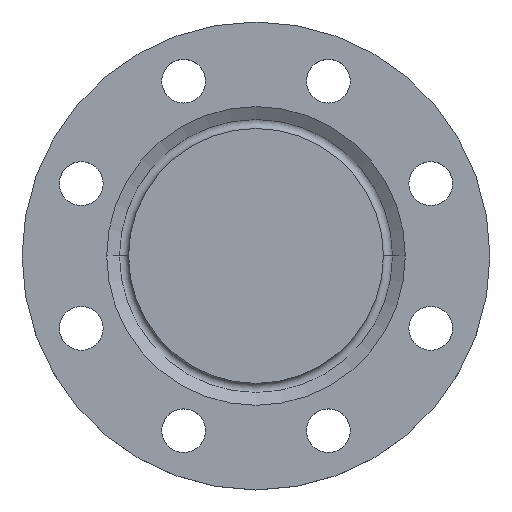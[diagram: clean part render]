
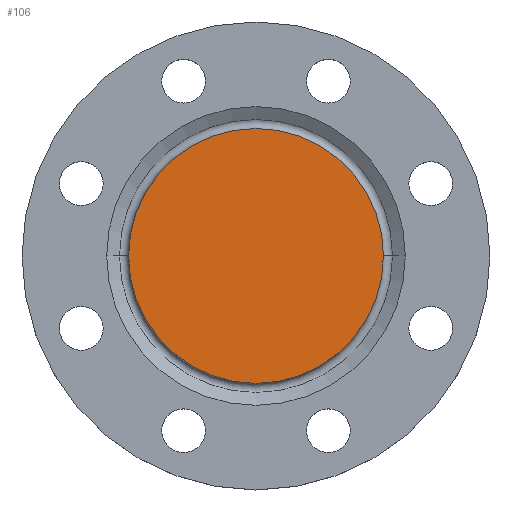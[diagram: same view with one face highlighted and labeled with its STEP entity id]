
A CAD part, top view. The second image highlights one B-rep face of the part: STEP entity #106.
In plain terms, the highlighted planar face has unit normal (0, 0, 1).
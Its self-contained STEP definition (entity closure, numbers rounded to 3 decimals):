
#66 = CARTESIAN_POINT ( 'NONE',  ( 64., 0., 0. ) ) ;
#106 = ADVANCED_FACE ( 'NONE', ( #494 ), #495, .T. ) ;
#133 = CARTESIAN_POINT ( 'NONE',  ( -64., 0., 0. ) ) ;
#272 = DIRECTION ( 'NONE',  ( -1., 0., 0. ) ) ;
#273 = DIRECTION ( 'NONE',  ( 0., 0., -1. ) ) ;
#275 = CARTESIAN_POINT ( 'NONE',  ( 0., 0., 0. ) ) ;
#364 = CIRCLE ( 'NONE', #676, 64. ) ;
#377 = AXIS2_PLACEMENT_3D ( 'NONE', #496, #497, #498 ) ;
#494 = FACE_OUTER_BOUND ( 'NONE', #870, .T. ) ;
#495 = PLANE ( 'NONE',  #377 ) ;
#496 = CARTESIAN_POINT ( 'NONE',  ( 0., 0., 0. ) ) ;
#497 = DIRECTION ( 'NONE',  ( 0., 0., 1. ) ) ;
#498 = DIRECTION ( 'NONE',  ( 1., 0., 0. ) ) ;
#590 = EDGE_CURVE ( 'NONE', #901, #748, #761, .T. ) ;
#606 = EDGE_CURVE ( 'NONE', #748, #901, #364, .T. ) ;
#650 = AXIS2_PLACEMENT_3D ( 'NONE', #687, #688, #689 ) ;
#676 = AXIS2_PLACEMENT_3D ( 'NONE', #275, #273, #272 ) ;
#687 = CARTESIAN_POINT ( 'NONE',  ( 0., 0., 0. ) ) ;
#688 = DIRECTION ( 'NONE',  ( 0., 0., -1. ) ) ;
#689 = DIRECTION ( 'NONE',  ( -1., 0., 0. ) ) ;
#748 = VERTEX_POINT ( 'NONE', #133 ) ;
#761 = CIRCLE ( 'NONE', #650, 64. ) ;
#770 = ORIENTED_EDGE ( 'NONE', *, *, #606, .F. ) ;
#772 = ORIENTED_EDGE ( 'NONE', *, *, #590, .F. ) ;
#870 = EDGE_LOOP ( 'NONE', ( #770, #772 ) ) ;
#901 = VERTEX_POINT ( 'NONE', #66 ) ;
